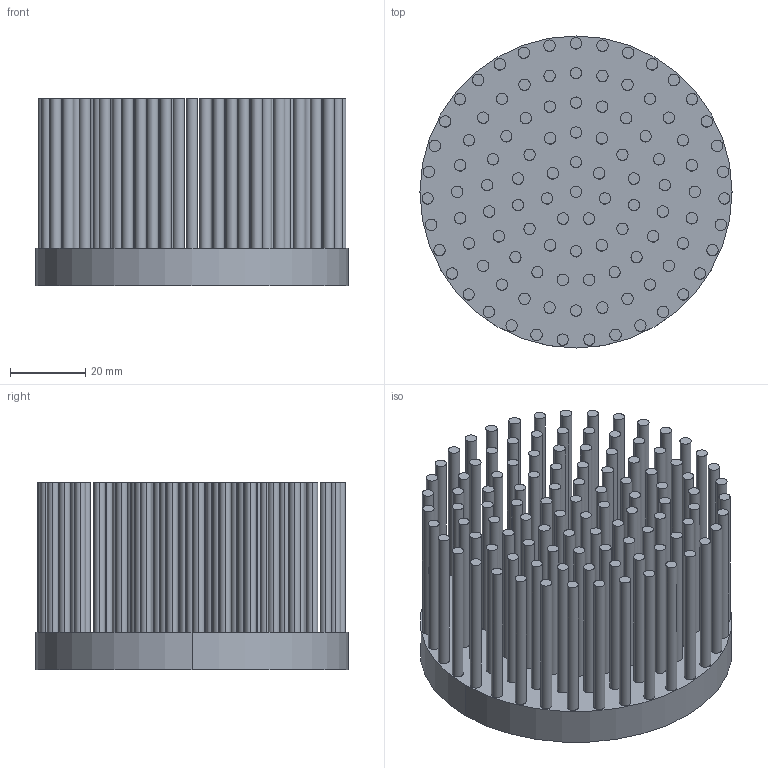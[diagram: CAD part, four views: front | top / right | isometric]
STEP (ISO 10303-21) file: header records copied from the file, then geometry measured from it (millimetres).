
FILE_DESCRIPTION (( 'STEP AP214' ), '1' );
FILE_NAME ('CPL8050-101.STEP', '2014-01-28T19:54:37', ( '' ), ( '' ), 'SwSTEP 2.0', 'SolidWorks 2013', '' );
FILE_SCHEMA (( 'AUTOMOTIVE_DESIGN' ));
Length unit declared in the file: millimetre
Products named in the file (1): CPL8050-101
Bounding box: 83 x 83 x 50 mm (x, y, z)
Volume: 84076.9 mm3; surface area: 53389.8 mm2
Topology: 1 solids, 1 shells, 322 faces, 642 edges, 428 vertices
Faces by surface type: cylinder 214, plane 108
Entity records: 8608 total; most frequent: DIRECTION 1716, CARTESIAN_POINT 1393, ORIENTED_EDGE 1284, AXIS2_PLACEMENT_3D 751, EDGE_CURVE 642, EDGE_LOOP 428, VERTEX_POINT 428, CIRCLE 428
